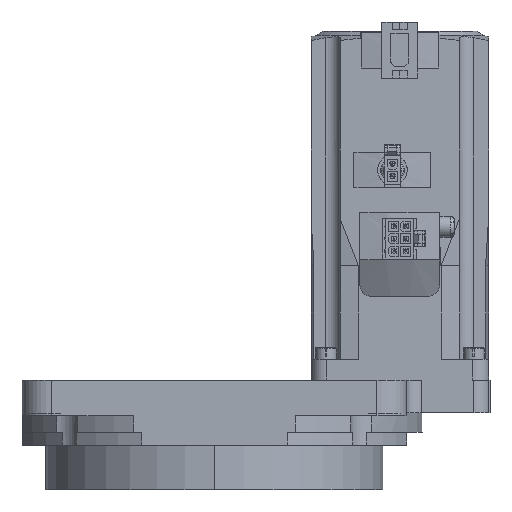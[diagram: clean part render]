
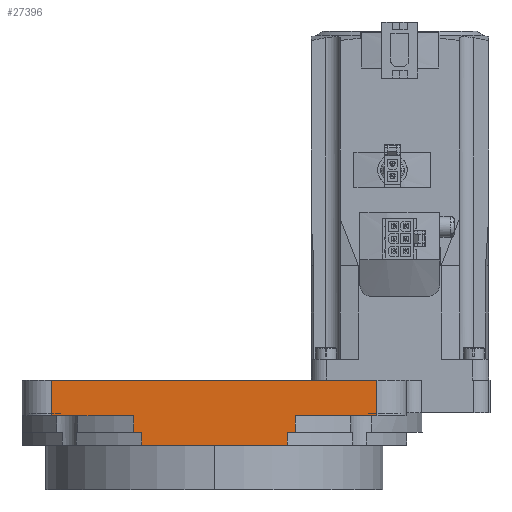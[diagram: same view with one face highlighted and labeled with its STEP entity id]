
A CAD part, left-side view. The second image highlights one B-rep face of the part: STEP entity #27396.
In plain terms, the highlighted planar face has unit normal (-1, 0, 0).
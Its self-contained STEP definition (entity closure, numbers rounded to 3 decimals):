
#113 = ORIENTED_EDGE ( 'NONE', *, *, #21907, .T. ) ;
#131 = VERTEX_POINT ( 'NONE', #4662 ) ;
#457 = VECTOR ( 'NONE', #14626, 1000. ) ;
#504 = ORIENTED_EDGE ( 'NONE', *, *, #17054, .T. ) ;
#614 = PLANE ( 'NONE',  #30723 ) ;
#871 = DIRECTION ( 'NONE',  ( 0., -1., 0. ) ) ;
#1159 = LINE ( 'NONE', #31821, #28556 ) ;
#2284 = CARTESIAN_POINT ( 'NONE',  ( -65., 7.7, 0. ) ) ;
#3188 = VECTOR ( 'NONE', #17559, 1000. ) ;
#3247 = DIRECTION ( 'NONE',  ( -1., 0., 0. ) ) ;
#3952 = CARTESIAN_POINT ( 'NONE',  ( -65., 117.7, 0. ) ) ;
#4184 = EDGE_CURVE ( 'NONE', #18680, #7977, #14716, .T. ) ;
#4354 = CARTESIAN_POINT ( 'NONE',  ( -65., -37.3, -17.7 ) ) ;
#4451 = VECTOR ( 'NONE', #7626, 1000. ) ;
#4662 = CARTESIAN_POINT ( 'NONE',  ( -65., 38.098, -17.7 ) ) ;
#5144 = CARTESIAN_POINT ( 'NONE',  ( -65., 38.098, 13.761 ) ) ;
#5337 = ORIENTED_EDGE ( 'NONE', *, *, #9563, .T. ) ;
#6709 = EDGE_CURVE ( 'NONE', #7308, #13827, #19978, .T. ) ;
#7308 = VERTEX_POINT ( 'NONE', #16967 ) ;
#7380 = EDGE_LOOP ( 'NONE', ( #26220, #12142, #23096, #113, #504, #29121, #19421, #12475, #8273, #17762, #5337, #28214 ) ) ;
#7424 = CARTESIAN_POINT ( 'NONE',  ( -65., -2.3, -22. ) ) ;
#7626 = DIRECTION ( 'NONE',  ( 0., 0., 1. ) ) ;
#7636 = VECTOR ( 'NONE', #24469, 1000. ) ;
#7644 = VECTOR ( 'NONE', #9967, 1000. ) ;
#7761 = CARTESIAN_POINT ( 'NONE',  ( -65., 89.999, -17.7 ) ) ;
#7778 = CARTESIAN_POINT ( 'NONE',  ( -65., 35.401, 13.761 ) ) ;
#7977 = VERTEX_POINT ( 'NONE', #3952 ) ;
#8273 = ORIENTED_EDGE ( 'NONE', *, *, #32224, .F. ) ;
#8514 = CARTESIAN_POINT ( 'NONE',  ( -65., 87.302, -22. ) ) ;
#9185 = VERTEX_POINT ( 'NONE', #12378 ) ;
#9462 = CARTESIAN_POINT ( 'NONE',  ( -65., 35.401, -12. ) ) ;
#9563 = EDGE_CURVE ( 'NONE', #131, #7308, #13957, .T. ) ;
#9967 = DIRECTION ( 'NONE',  ( 0., 1., 0. ) ) ;
#10468 = CARTESIAN_POINT ( 'NONE',  ( -65., 89.999, -12. ) ) ;
#11278 = VECTOR ( 'NONE', #871, 1000. ) ;
#11428 = CARTESIAN_POINT ( 'NONE',  ( -65., 7.7, -12. ) ) ;
#11944 = CARTESIAN_POINT ( 'NONE',  ( -65., 117.7, 0. ) ) ;
#12142 = ORIENTED_EDGE ( 'NONE', *, *, #12778, .T. ) ;
#12378 = CARTESIAN_POINT ( 'NONE',  ( -65., 117.7, -12. ) ) ;
#12475 = ORIENTED_EDGE ( 'NONE', *, *, #27990, .T. ) ;
#12778 = EDGE_CURVE ( 'NONE', #33194, #18680, #18567, .T. ) ;
#12838 = VECTOR ( 'NONE', #30918, 1000. ) ;
#12867 = VECTOR ( 'NONE', #31670, 1000. ) ;
#13010 = LINE ( 'NONE', #21779, #7636 ) ;
#13012 = DIRECTION ( 'NONE',  ( 0., 0., 1. ) ) ;
#13653 = LINE ( 'NONE', #4354, #12838 ) ;
#13827 = VERTEX_POINT ( 'NONE', #9462 ) ;
#13855 = DIRECTION ( 'NONE',  ( 0., -1., 0. ) ) ;
#13957 = LINE ( 'NONE', #21926, #20252 ) ;
#14566 = LINE ( 'NONE', #11944, #457 ) ;
#14626 = DIRECTION ( 'NONE',  ( 0., 0., -1. ) ) ;
#14716 = LINE ( 'NONE', #17063, #7644 ) ;
#15645 = EDGE_CURVE ( 'NONE', #13827, #33194, #18372, .T. ) ;
#16483 = CARTESIAN_POINT ( 'NONE',  ( -65., 127.7, 0. ) ) ;
#16967 = CARTESIAN_POINT ( 'NONE',  ( -65., 35.401, -17.7 ) ) ;
#17054 = EDGE_CURVE ( 'NONE', #9185, #18847, #1159, .T. ) ;
#17063 = CARTESIAN_POINT ( 'NONE',  ( -65., -2.3, 0. ) ) ;
#17325 = LINE ( 'NONE', #25606, #3188 ) ;
#17559 = DIRECTION ( 'NONE',  ( 0., 0., -1. ) ) ;
#17762 = ORIENTED_EDGE ( 'NONE', *, *, #31636, .T. ) ;
#18105 = DIRECTION ( 'NONE',  ( 0., 1., 0. ) ) ;
#18372 = LINE ( 'NONE', #19453, #11278 ) ;
#18567 = LINE ( 'NONE', #2284, #4451 ) ;
#18680 = VERTEX_POINT ( 'NONE', #20510 ) ;
#18847 = VERTEX_POINT ( 'NONE', #10468 ) ;
#19293 = CARTESIAN_POINT ( 'NONE',  ( -65., 87.302, -17.7 ) ) ;
#19421 = ORIENTED_EDGE ( 'NONE', *, *, #31481, .T. ) ;
#19453 = CARTESIAN_POINT ( 'NONE',  ( -65., 127.7, -12. ) ) ;
#19468 = VECTOR ( 'NONE', #18105, 1000. ) ;
#19978 = LINE ( 'NONE', #7778, #12867 ) ;
#20012 = VERTEX_POINT ( 'NONE', #19293 ) ;
#20252 = VECTOR ( 'NONE', #13855, 1000. ) ;
#20452 = VERTEX_POINT ( 'NONE', #7761 ) ;
#20510 = CARTESIAN_POINT ( 'NONE',  ( -65., 7.7, 0. ) ) ;
#21779 = CARTESIAN_POINT ( 'NONE',  ( -65., 87.302, 13.761 ) ) ;
#21866 = DIRECTION ( 'NONE',  ( 0., 0., 1. ) ) ;
#21907 = EDGE_CURVE ( 'NONE', #7977, #9185, #14566, .T. ) ;
#21926 = CARTESIAN_POINT ( 'NONE',  ( -65., -37.3, -17.7 ) ) ;
#22008 = VECTOR ( 'NONE', #13012, 1000. ) ;
#23096 = ORIENTED_EDGE ( 'NONE', *, *, #4184, .T. ) ;
#24469 = DIRECTION ( 'NONE',  ( 0., 0., -1. ) ) ;
#25606 = CARTESIAN_POINT ( 'NONE',  ( -65., 89.999, 13.761 ) ) ;
#26220 = ORIENTED_EDGE ( 'NONE', *, *, #15645, .T. ) ;
#26630 = DIRECTION ( 'NONE',  ( 0., -1., 0. ) ) ;
#27396 = ADVANCED_FACE ( 'NONE', ( #28864 ), #614, .T. ) ;
#27990 = EDGE_CURVE ( 'NONE', #20012, #33812, #13010, .T. ) ;
#28185 = LINE ( 'NONE', #7424, #19468 ) ;
#28214 = ORIENTED_EDGE ( 'NONE', *, *, #6709, .T. ) ;
#28556 = VECTOR ( 'NONE', #26630, 1000. ) ;
#28864 = FACE_OUTER_BOUND ( 'NONE', #7380, .T. ) ;
#29121 = ORIENTED_EDGE ( 'NONE', *, *, #33826, .T. ) ;
#29868 = LINE ( 'NONE', #5144, #22008 ) ;
#30723 = AXIS2_PLACEMENT_3D ( 'NONE', #16483, #3247, #21866 ) ;
#30918 = DIRECTION ( 'NONE',  ( 0., -1., 0. ) ) ;
#31481 = EDGE_CURVE ( 'NONE', #20452, #20012, #13653, .T. ) ;
#31575 = VERTEX_POINT ( 'NONE', #33926 ) ;
#31636 = EDGE_CURVE ( 'NONE', #31575, #131, #29868, .T. ) ;
#31670 = DIRECTION ( 'NONE',  ( 0., 0., 1. ) ) ;
#31821 = CARTESIAN_POINT ( 'NONE',  ( -65., 127.7, -12. ) ) ;
#32224 = EDGE_CURVE ( 'NONE', #31575, #33812, #28185, .T. ) ;
#33194 = VERTEX_POINT ( 'NONE', #11428 ) ;
#33812 = VERTEX_POINT ( 'NONE', #8514 ) ;
#33826 = EDGE_CURVE ( 'NONE', #18847, #20452, #17325, .T. ) ;
#33926 = CARTESIAN_POINT ( 'NONE',  ( -65., 38.098, -22. ) ) ;
